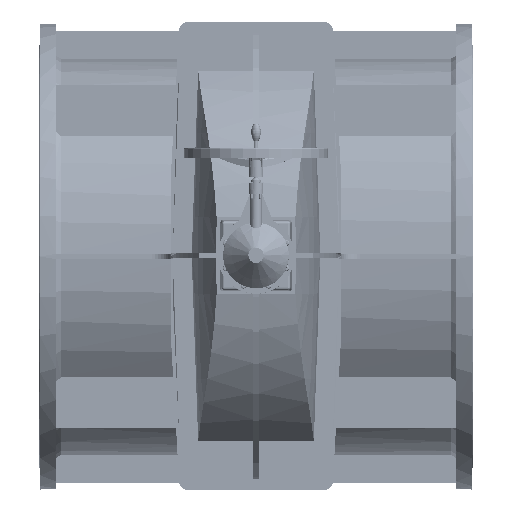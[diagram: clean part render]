
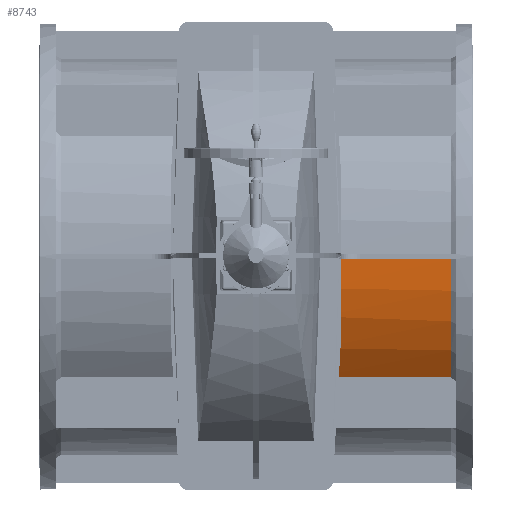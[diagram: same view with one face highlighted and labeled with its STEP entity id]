
A CAD part, top view. The second image highlights one B-rep face of the part: STEP entity #8743.
In plain terms, the highlighted cylindrical face has radius 821.667 mm (diameter 1643.33 mm), a partial arc.
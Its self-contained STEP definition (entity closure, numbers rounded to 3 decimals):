
#8743=ADVANCED_FACE('',(#13564),#13566,.T.);
#13564=FACE_BOUND('',#13565,.T.);
#13565=EDGE_LOOP('',(#31918,#31919,#31920,#31921));
#13566=CYLINDRICAL_SURFACE('',#13567,821.667);
#13567=AXIS2_PLACEMENT_3D('',#13568,#13569,#13570);
#13568=CARTESIAN_POINT('',(830.,0.,0.));
#13569=DIRECTION('',(-1.,0.,0.));
#13570=DIRECTION('',(0.,1.,0.));
#31918=ORIENTED_EDGE('',*,*,#41187,.F.);
#31919=ORIENTED_EDGE('',*,*,#41317,.T.);
#31920=ORIENTED_EDGE('',*,*,#41281,.F.);
#31921=ORIENTED_EDGE('',*,*,#41246,.T.);
#41187=EDGE_CURVE('',#46225,#46227,#46228,.T.);
#41246=EDGE_CURVE('',#46318,#46227,#46319,.F.);
#41281=EDGE_CURVE('',#46318,#46384,#46385,.F.);
#41317=EDGE_CURVE('',#46225,#46384,#46441,.T.);
#46225=VERTEX_POINT('',#55659);
#46227=VERTEX_POINT('',#55670);
#46228=LINE('',#55671,#55672);
#46318=VERTEX_POINT('',#55915);
#46319=B_SPLINE_CURVE_WITH_KNOTS('',3,
(#55916,#55917,#55918,#55919,#55920,#55921,#55922,#55923,#55924,#55925,#55926,#55927,
#55928,#55929,#55930,#55931,#55932,#55933,#55934,#55935,#55936,#55937,#55938,#55939),
.UNSPECIFIED.,.F.,.F.,
(4,1,1,1,1,1,1,1,1,1,1,1,1,1,1,1,1,1,1,1,1,4),
(0.,0.034,0.082,0.134,0.189,0.234,
0.281,0.347,0.413,0.48,0.531,
0.583,0.647,0.709,0.766,0.805,
0.841,0.874,0.907,0.938,0.969,
1.),
.UNSPECIFIED.);
#46384=VERTEX_POINT('',#56206);
#46385=LINE('',#56207,#56208);
#46441=CIRCLE('',#56396,821.667);
#55659=CARTESIAN_POINT('',(808.333,-499.619,652.317));
#55670=CARTESIAN_POINT('',(251.23,-499.619,652.317));
#55671=CARTESIAN_POINT('',(808.333,-499.619,652.317));
#55672=VECTOR('',#55673,1.);
#55673=DIRECTION('',(-1.,0.,0.));
#55915=CARTESIAN_POINT('',(274.993,-10.833,821.595));
#55916=CARTESIAN_POINT('',(251.23,-499.619,652.317));
#55917=CARTESIAN_POINT('',(251.666,-494.892,655.937));
#55918=CARTESIAN_POINT('',(252.718,-483.336,664.59));
#55919=CARTESIAN_POINT('',(254.407,-464.189,678.156));
#55920=CARTESIAN_POINT('',(256.317,-441.6,693.098));
#55921=CARTESIAN_POINT('',(258.138,-419.003,706.967));
#55922=CARTESIAN_POINT('',(259.852,-396.658,719.718));
#55923=CARTESIAN_POINT('',(261.638,-372.202,732.733));
#55924=CARTESIAN_POINT('',(263.574,-343.911,746.502));
#55925=CARTESIAN_POINT('',(265.589,-311.803,760.479));
#55926=CARTESIAN_POINT('',(267.309,-281.545,772.136));
#55927=CARTESIAN_POINT('',(268.755,-253.433,781.76));
#55928=CARTESIAN_POINT('',(270.061,-225.438,790.332));
#55929=CARTESIAN_POINT('',(271.297,-195.402,798.324));
#55930=CARTESIAN_POINT('',(272.398,-163.916,805.354));
#55931=CARTESIAN_POINT('',(273.188,-136.733,810.344));
#55932=CARTESIAN_POINT('',(273.744,-113.779,813.83));
#55933=CARTESIAN_POINT('',(274.127,-95.018,816.222));
#55934=CARTESIAN_POINT('',(274.428,-77.198,818.094));
#55935=CARTESIAN_POINT('',(274.658,-60.12,819.523));
#55936=CARTESIAN_POINT('',(274.828,-43.39,820.576));
#55937=CARTESIAN_POINT('',(274.942,-27.023,821.276));
#55938=CARTESIAN_POINT('',(274.982,-16.198,821.525));
#55939=CARTESIAN_POINT('',(274.993,-10.833,821.595));
#56206=CARTESIAN_POINT('',(808.333,-10.833,821.595));
#56207=CARTESIAN_POINT('',(808.333,-10.833,821.595));
#56208=VECTOR('',#56209,1.);
#56209=DIRECTION('',(-1.,0.,0.));
#56396=AXIS2_PLACEMENT_3D('',#56397,#56398,#56399);
#56397=CARTESIAN_POINT('',(808.333,0.,0.));
#56398=DIRECTION('',(-1.,0.,0.));
#56399=DIRECTION('',(0.,-0.608,0.794));
